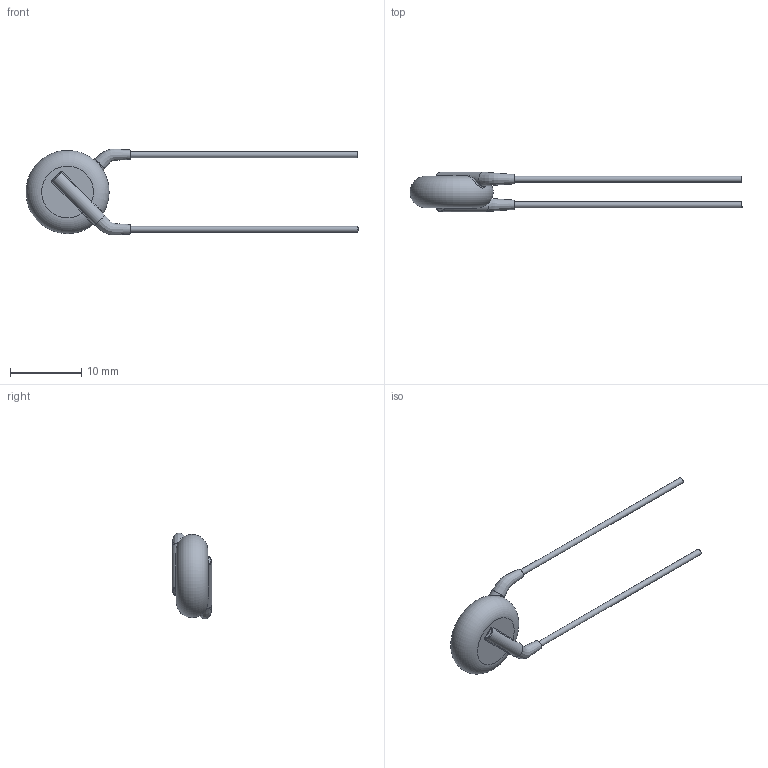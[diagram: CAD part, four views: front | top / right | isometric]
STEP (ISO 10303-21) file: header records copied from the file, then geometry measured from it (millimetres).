
FILE_DESCRIPTION(/* description */ (''),/* implementation_level */ '2;1');
FILE_NAME(/* name */ 'I:\Marketing\M6t1\3D-Models\Zchng-Werk-3\Upload for homepage\Ceramite\Y5U\440LD28-R\440LD28-R.stp',/* time_stamp */ '2016-11-10T14:21:21+01:00',/* author */ ('sheinrich'),/* organization */ (''),/* preprocessor_version */ 'ST-DEVELOPER v16.1',/* originating_system */ 'Autodesk Inventor 2016',/* authorisation */ '');
FILE_SCHEMA (('AUTOMOTIVE_DESIGN { 1 0 10303 214 3 1 1 }'));
Length unit declared in the file: millimetre
Products named in the file (1): 440LD28-R
Bounding box: 46.69 x 5.6 x 12.07 mm (x, y, z)
Volume: 476.1 mm3; surface area: 532 mm2
Topology: 1 solids, 1 shells, 37 faces, 80 edges, 43 vertices
Faces by surface type: bspline 12, cylinder 10, plane 8, torus 7
Full cylindrical faces by diameter (mm): 0.81 x2, 2 x2
Entity records: 1749 total; most frequent: CARTESIAN_POINT 998, ORIENTED_EDGE 136, DIRECTION 128, EDGE_CURVE 68, AXIS2_PLACEMENT_3D 58, EDGE_LOOP 44, VERTEX_POINT 40, STYLED_ITEM 38
